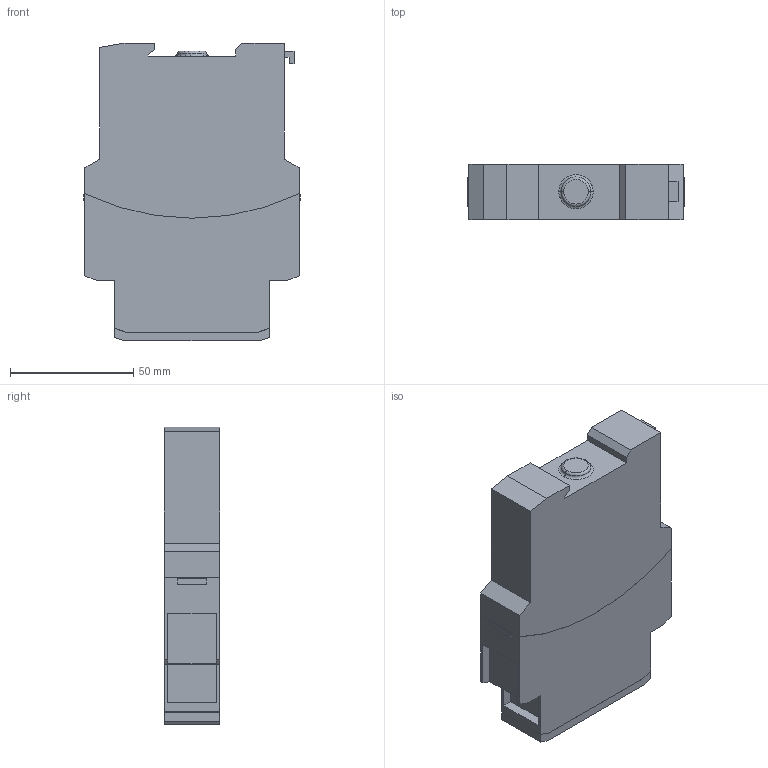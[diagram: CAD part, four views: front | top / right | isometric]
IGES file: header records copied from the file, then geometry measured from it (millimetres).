
Start section:  PTC IGES file: 2008425
Global section: file name: 2008425; native system: Pro/ENGINEER by Parametric Technology Corporation; preprocessor: 2009380; author: merz; organization: Unknown; date: 20110505.144554; units: millimetre
Bounding box: 87.8 x 22.5 x 120.6 mm (x, y, z)
Surface area: 29155.5 mm2 (no closed solid volume)
Topology: 0 solids, 0 shells, 119 faces, 636 edges, 636 vertices
Faces by surface type: bspline 109, revolution 10
